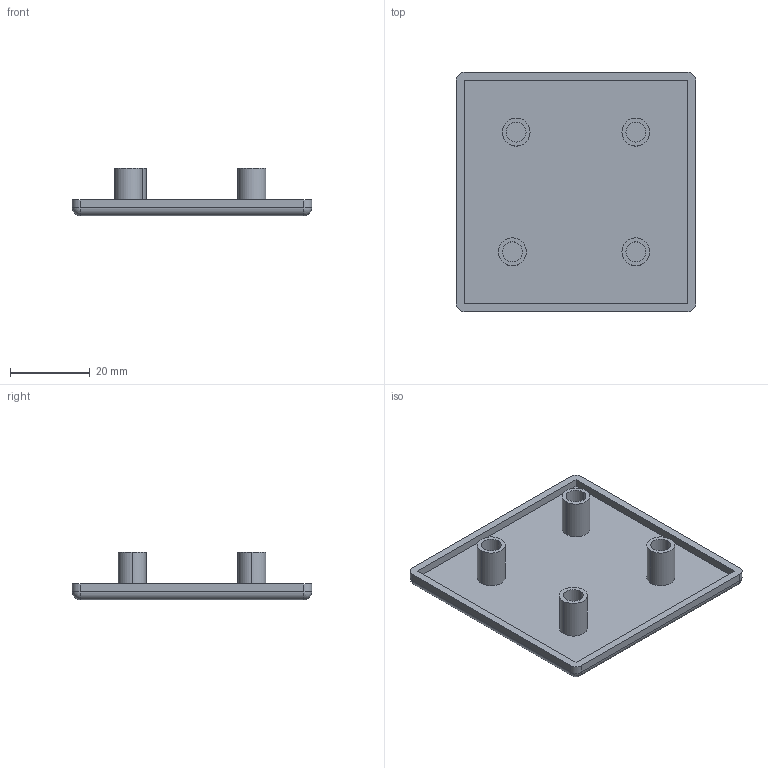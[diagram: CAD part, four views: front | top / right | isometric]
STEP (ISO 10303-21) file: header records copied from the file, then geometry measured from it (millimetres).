
FILE_DESCRIPTION (( 'STEP AP203' ), '1' );
FILE_NAME ('179-CE-CP-6060.STEP', '2015-07-09T09:16:32', ( '' ), ( '' ), 'SwSTEP 2.0', 'SolidWorks 2013', '' );
FILE_SCHEMA (( 'CONFIG_CONTROL_DESIGN' ));
Length unit declared in the file: millimetre
Products named in the file (1): 179-CE-CP-6060
Bounding box: 60 x 60 x 12 mm (x, y, z)
Volume: 8667.6 mm3; surface area: 9890.5 mm2
Topology: 1 solids, 1 shells, 47 faces, 100 edges, 60 vertices
Faces by surface type: cylinder 24, plane 19, sphere 4
Entity records: 1319 total; most frequent: DIRECTION 240, CARTESIAN_POINT 204, ORIENTED_EDGE 192, AXIS2_PLACEMENT_3D 96, EDGE_CURVE 96, VERTEX_POINT 60, EDGE_LOOP 56, LINE 48
